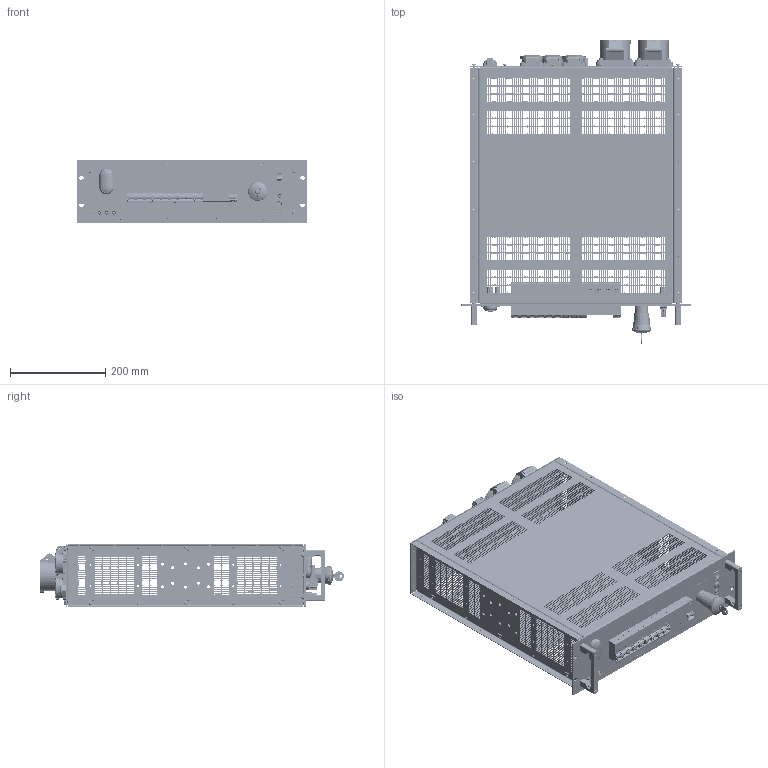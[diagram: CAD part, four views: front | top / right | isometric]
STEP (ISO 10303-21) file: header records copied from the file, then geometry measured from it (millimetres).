
FILE_DESCRIPTION(('STEP AP214'),'1');
FILE_NAME('SE_M8_19Z_3HE_3PH16_6XSCH16_DC_3D_02.step','2021-09-16T07:03:13',(' '),(' '),'Spatial InterOp 3D',' ',' ');
FILE_SCHEMA(('AUTOMOTIVE_DESIGN { 1 0 10303 214 1 1 1 1 }'));
Length unit declared in the file: millimetre
Products named in the file (14): 22_DECKEL_3D_03; 23_ST_3HE_3D_05; 348_Front_Einsch_Kom_BMW_mit_Einbauten_3D_04; DIN 965-A; JIS B1111-PNH-Z; 455_Rück_Einsch_Kom_BMW_mit_Einbauten_3D_05; *U531; *U532; *U533; *U534; AutoCreatedBlock_1010; DIN 7985-A
Assembly tree (65 placements, depth 3):
  (unnamed)
    22_DECKEL_3D_03  x2
    23_ST_3HE_3D_05  x2
    348_Front_Einsch_Kom_BMW_mit_Einbauten_3D_04
    DIN 965-A  x8
    JIS B1111-PNH-Z  x20
    455_Rück_Einsch_Kom_BMW_mit_Einbauten_3D_05
      *U531  x12
      *U532
      *U533  x2
      *U534  x3
      AutoCreatedBlock_1010
    DIN 7985-A  x8
    DIN 7985-A  x4
Bounding box: 482.6 x 638.79 x 134.47 mm (x, y, z)
Volume: 2876880.4 mm3; surface area: 1784557.5 mm2
Topology: 201 solids, 246 shells, 28410 faces, 77158 edges, 49538 vertices
Faces by surface type: plane 13189, cylinder 8723, cone 5517, torus 407, bspline 348, sphere 206, extrusion 20
Entity records: 824396 total; most frequent: CARTESIAN_POINT 151592, ORIENTED_EDGE 97646, DIRECTION 97490, EDGE_CURVE 48903, AXIS2_PLACEMENT_3D 32720, VECTOR 32050, LINE 32030, VERTEX_POINT 31789
